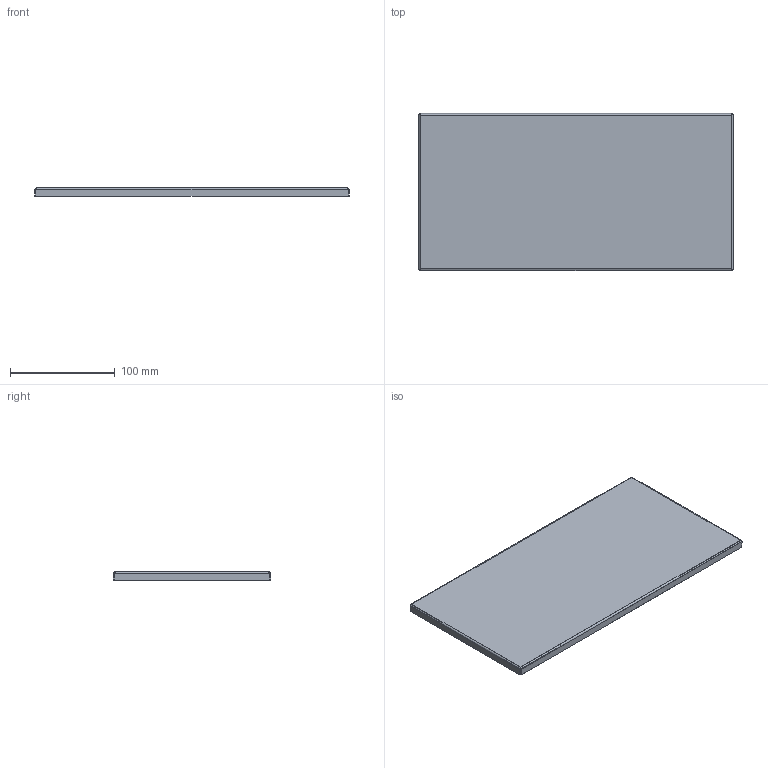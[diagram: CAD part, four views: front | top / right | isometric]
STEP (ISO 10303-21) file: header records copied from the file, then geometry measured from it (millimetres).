
FILE_DESCRIPTION(/* description */ ('-'),/* implementation_level */ '2;1');
FILE_NAME(/* name */ 'Decor_150x300.step',/* time_stamp */ '2025-01-27T18:45:28+01:00',/* author */ ('Jarosław Sierota'),/* organization */ ('JS'),/* preprocessor_version */ 'ST-DEVELOPER v20',/* originating_system */ 'Autodesk Inventor 2025',/* authorisation */ 'Jarosław Sierota');
FILE_SCHEMA (('AUTOMOTIVE_DESIGN { 1 0 10303 214 3 1 1 }'));
Length unit declared in the file: millimetre
Products named in the file (1): Decor_100x100
Bounding box: 300 x 150 x 8 mm (x, y, z)
Volume: 29152.5 mm3; surface area: 102840 mm2
Topology: 1 solids, 1 shells, 38 faces, 76 edges, 40 vertices
Faces by surface type: plane 22, bspline 8, cylinder 8
Entity records: 1399 total; most frequent: CARTESIAN_POINT 643, ORIENTED_EDGE 152, DIRECTION 122, EDGE_CURVE 76, LINE 60, VECTOR 60, VERTEX_POINT 40, FACE_OUTER_BOUND 38
